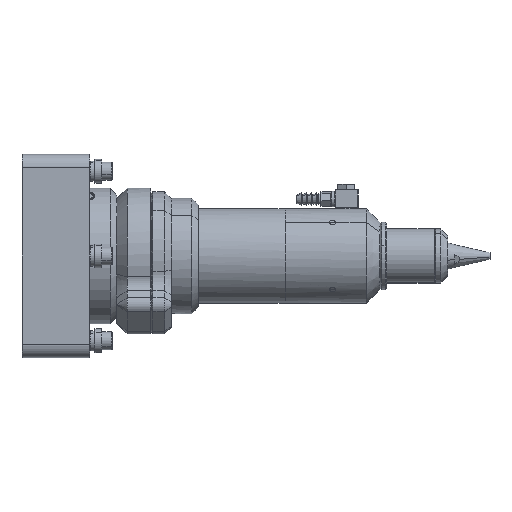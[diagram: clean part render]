
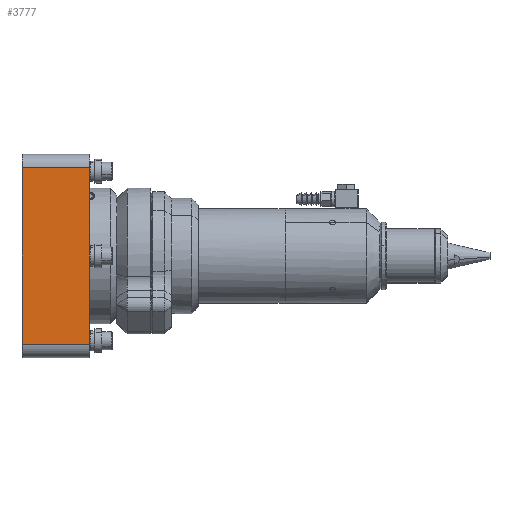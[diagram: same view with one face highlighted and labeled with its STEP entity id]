
A CAD part, left-side view. The second image highlights one B-rep face of the part: STEP entity #3777.
In plain terms, the highlighted planar face has unit normal (-1, 0, 0).
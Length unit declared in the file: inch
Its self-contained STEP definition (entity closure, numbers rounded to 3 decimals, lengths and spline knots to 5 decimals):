
#107 = VECTOR ( 'NONE', #1105, 39.37008 ) ;
#279 = DIRECTION ( 'NONE',  ( 0., 0., 1. ) ) ;
#1105 = DIRECTION ( 'NONE',  ( 0., -1., 0. ) ) ;
#1365 = ORIENTED_EDGE ( 'NONE', *, *, #21017, .T. ) ;
#3567 = DIRECTION ( 'NONE',  ( 0., 0., 1. ) ) ;
#3777 = ADVANCED_FACE ( 'Defeatured_0_15', ( #14553 ), #16172, .F. ) ;
#4190 = LINE ( 'NONE', #6847, #11969 ) ;
#4344 = VERTEX_POINT ( 'NONE', #10835 ) ;
#4710 = VECTOR ( 'NONE', #3567, 39.37008 ) ;
#6230 = DIRECTION ( 'NONE',  ( 1., 0., 0. ) ) ;
#6278 = LINE ( 'NONE', #10244, #4710 ) ;
#6847 = CARTESIAN_POINT ( 'NONE',  ( -1.875, 0., -1.875 ) ) ;
#6899 = VERTEX_POINT ( 'NONE', #7034 ) ;
#7034 = CARTESIAN_POINT ( 'NONE',  ( -1.875, 1.25, 1.625 ) ) ;
#7480 = ORIENTED_EDGE ( 'NONE', *, *, #13252, .F. ) ;
#9277 = VERTEX_POINT ( 'NONE', #9512 ) ;
#9477 = LINE ( 'NONE', #14175, #107 ) ;
#9512 = CARTESIAN_POINT ( 'NONE',  ( -1.875, 0., 1.625 ) ) ;
#10244 = CARTESIAN_POINT ( 'NONE',  ( -1.875, 1.25, -1.875 ) ) ;
#10835 = CARTESIAN_POINT ( 'NONE',  ( -1.875, 1.25, -1.625 ) ) ;
#11215 = DIRECTION ( 'NONE',  ( 0., 0., -1. ) ) ;
#11775 = AXIS2_PLACEMENT_3D ( 'NONE', #12690, #6230, #11215 ) ;
#11960 = CARTESIAN_POINT ( 'NONE',  ( -1.875, 0., -1.625 ) ) ;
#11969 = VECTOR ( 'NONE', #279, 39.37008 ) ;
#12690 = CARTESIAN_POINT ( 'NONE',  ( -1.875, 1.25, -1.875 ) ) ;
#12828 = CARTESIAN_POINT ( 'NONE',  ( -1.875, 1.25, 1.625 ) ) ;
#13087 = EDGE_CURVE ( 'Defeatured_0_15+Defeatured_0_19+Defeatured_0_23+Defeatured_0_24', #20747, #9277, #4190, .T. ) ;
#13252 = EDGE_CURVE ( 'Defeatured_0_14+Defeatured_0_15+Defeatured_0_23+Defeatured_0_24', #4344, #6899, #6278, .T. ) ;
#14175 = CARTESIAN_POINT ( 'NONE',  ( -1.875, 1.25, -1.625 ) ) ;
#14553 = FACE_OUTER_BOUND ( 'NONE', #14558, .T. ) ;
#14558 = EDGE_LOOP ( 'NONE', ( #7480, #21463, #15097, #1365 ) ) ;
#15097 = ORIENTED_EDGE ( 'NONE', *, *, #13087, .T. ) ;
#16172 = PLANE ( 'NONE',  #11775 ) ;
#17676 = DIRECTION ( 'NONE',  ( 0., 1., 0. ) ) ;
#18799 = EDGE_CURVE ( 'Defeatured_0_15+Defeatured_0_23+Defeatured_0_14+Defeatured_0_19', #4344, #20747, #9477, .T. ) ;
#20566 = VECTOR ( 'NONE', #17676, 39.37008 ) ;
#20747 = VERTEX_POINT ( 'NONE', #11960 ) ;
#21017 = EDGE_CURVE ( 'Defeatured_0_15+Defeatured_0_24+Defeatured_0_19+Defeatured_0_14', #9277, #6899, #21343, .T. ) ;
#21343 = LINE ( 'NONE', #12828, #20566 ) ;
#21463 = ORIENTED_EDGE ( 'NONE', *, *, #18799, .T. ) ;
